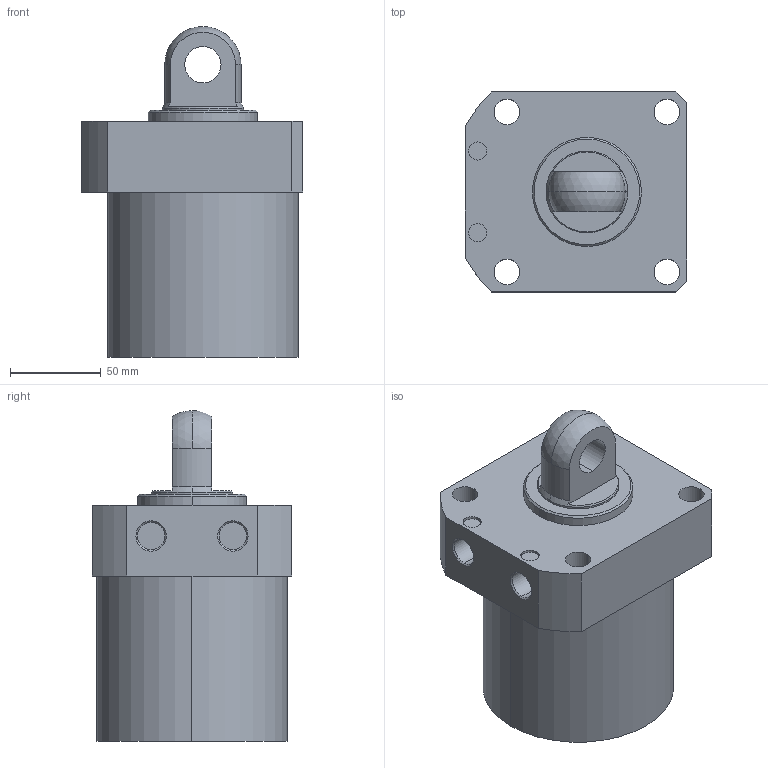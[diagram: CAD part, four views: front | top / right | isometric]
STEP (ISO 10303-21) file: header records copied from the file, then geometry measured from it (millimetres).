
FILE_DESCRIPTION (( 'STEP AP203' ), '1' );
FILE_NAME ('CLLR-105CP-070.STEP', '2019-12-19T02:08:39', ( '' ), ( '' ), 'SwSTEP 2.0', 'SolidWorks 2015', '' );
FILE_SCHEMA (( 'CONFIG_CONTROL_DESIGN' ));
Length unit declared in the file: millimetre
Products named in the file (1): CLLR-105CP-070
Bounding box: 122 x 110 x 182 mm (x, y, z)
Volume: 1314172.1 mm3; surface area: 87696.9 mm2
Topology: 1 solids, 1 shells, 57 faces, 135 edges, 87 vertices
Faces by surface type: cylinder 29, plane 18, cone 8, sphere 2
Entity records: 1770 total; most frequent: DIRECTION 319, CARTESIAN_POINT 292, ORIENTED_EDGE 270, EDGE_CURVE 135, AXIS2_PLACEMENT_3D 130, VERTEX_POINT 87, EDGE_LOOP 74, CIRCLE 72
